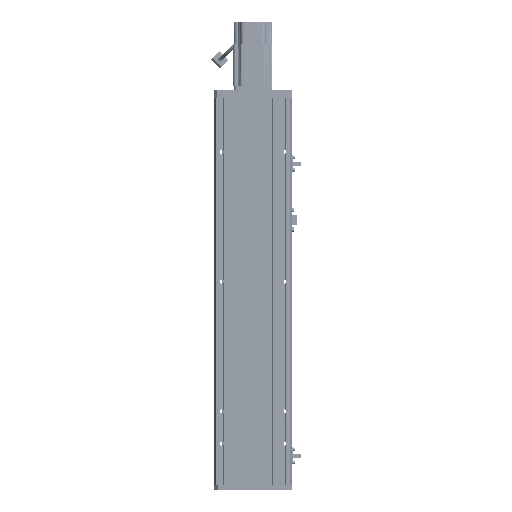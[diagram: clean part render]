
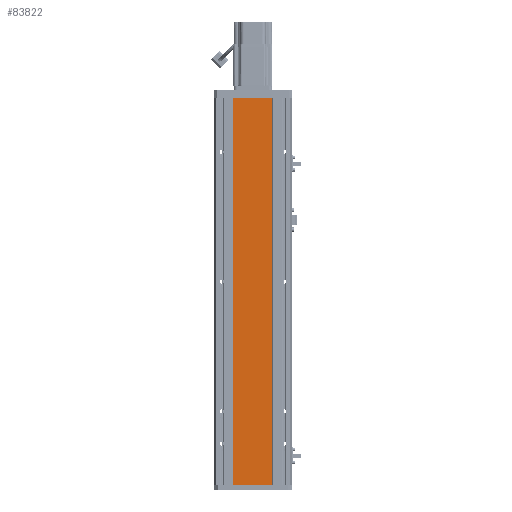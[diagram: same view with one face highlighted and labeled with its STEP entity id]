
A CAD part, front view. The second image highlights one B-rep face of the part: STEP entity #83822.
In plain terms, the highlighted planar face has unit normal (0, -1, 0).
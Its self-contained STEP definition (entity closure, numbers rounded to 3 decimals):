
#4220 = DIRECTION ( 'NONE',  ( -1., 0., 0. ) ) ;
#5712 = CARTESIAN_POINT ( 'NONE',  ( 30., 0., 0. ) ) ;
#6611 = VECTOR ( 'NONE', #10681, 1000. ) ;
#7528 = VECTOR ( 'NONE', #4220, 1000. ) ;
#8727 = DIRECTION ( 'NONE',  ( 0., 0., 1. ) ) ;
#9497 = VERTEX_POINT ( 'NONE', #41260 ) ;
#10681 = DIRECTION ( 'NONE',  ( 0., 0., 1. ) ) ;
#16972 = VERTEX_POINT ( 'NONE', #35321 ) ;
#18557 = EDGE_CURVE ( 'NONE', #86131, #9497, #43089, .T. ) ;
#18773 = LINE ( 'NONE', #5712, #38394 ) ;
#22957 = PLANE ( 'NONE',  #98015 ) ;
#29776 = LINE ( 'NONE', #71214, #7528 ) ;
#30978 = DIRECTION ( 'NONE',  ( -1., 0., 0. ) ) ;
#31369 = CARTESIAN_POINT ( 'NONE',  ( 30., 0., -596.5 ) ) ;
#31674 = VERTEX_POINT ( 'NONE', #65706 ) ;
#35321 = CARTESIAN_POINT ( 'NONE',  ( -30., 0., -596.5 ) ) ;
#38394 = VECTOR ( 'NONE', #30978, 1000. ) ;
#41260 = CARTESIAN_POINT ( 'NONE',  ( 30., 0., 0. ) ) ;
#41639 = EDGE_LOOP ( 'NONE', ( #41807, #76688, #49751, #57586 ) ) ;
#41807 = ORIENTED_EDGE ( 'NONE', *, *, #54839, .T. ) ;
#43089 = LINE ( 'NONE', #92142, #107314 ) ;
#48226 = DIRECTION ( 'NONE',  ( -1., 0., 0. ) ) ;
#49751 = ORIENTED_EDGE ( 'NONE', *, *, #51327, .F. ) ;
#51327 = EDGE_CURVE ( 'NONE', #86131, #16972, #29776, .T. ) ;
#51474 = FACE_OUTER_BOUND ( 'NONE', #41639, .T. ) ;
#54839 = EDGE_CURVE ( 'NONE', #9497, #31674, #18773, .T. ) ;
#57586 = ORIENTED_EDGE ( 'NONE', *, *, #18557, .T. ) ;
#65706 = CARTESIAN_POINT ( 'NONE',  ( -30., 0., 0. ) ) ;
#71214 = CARTESIAN_POINT ( 'NONE',  ( 30., 0., -596.5 ) ) ;
#76688 = ORIENTED_EDGE ( 'NONE', *, *, #95213, .F. ) ;
#83822 = ADVANCED_FACE ( 'NONE', ( #51474 ), #22957, .F. ) ;
#86066 = CARTESIAN_POINT ( 'NONE',  ( -30., 0., -596.5 ) ) ;
#86131 = VERTEX_POINT ( 'NONE', #99434 ) ;
#92142 = CARTESIAN_POINT ( 'NONE',  ( 30., 0., -596.5 ) ) ;
#95213 = EDGE_CURVE ( 'NONE', #16972, #31674, #95650, .T. ) ;
#95650 = LINE ( 'NONE', #86066, #6611 ) ;
#98015 = AXIS2_PLACEMENT_3D ( 'NONE', #31369, #98354, #48226 ) ;
#98354 = DIRECTION ( 'NONE',  ( 0., 1., 0. ) ) ;
#99434 = CARTESIAN_POINT ( 'NONE',  ( 30., 0., -596.5 ) ) ;
#107314 = VECTOR ( 'NONE', #8727, 1000. ) ;
